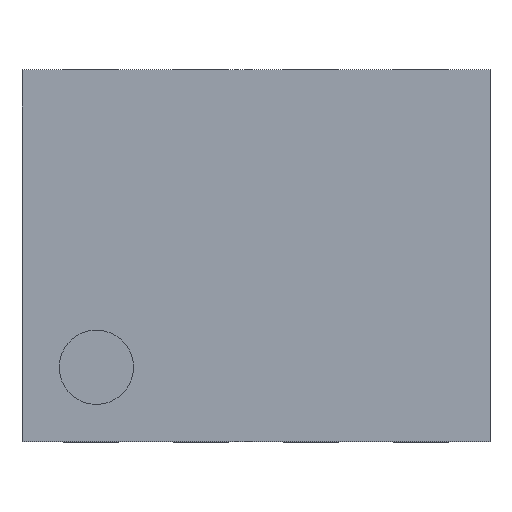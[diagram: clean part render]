
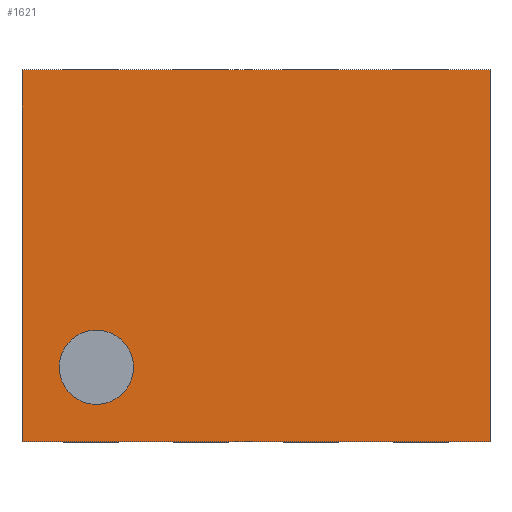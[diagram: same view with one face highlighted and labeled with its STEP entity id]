
A CAD part, top view. The second image highlights one B-rep face of the part: STEP entity #1621.
In plain terms, the highlighted planar face has unit normal (0, 0, 1).
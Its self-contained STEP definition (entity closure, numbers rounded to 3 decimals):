
#72=LINE('',#2304,#259);
#173=LINE('',#2539,#360);
#198=LINE('',#2594,#385);
#199=LINE('',#2596,#386);
#259=VECTOR('',#1880,1.7);
#360=VECTOR('',#2085,1.7);
#385=VECTOR('',#2144,1.35);
#386=VECTOR('',#2147,1.35);
#447=PLANE('',#1736);
#522=FACE_BOUND('',#680,.T.);
#523=FACE_BOUND('',#681,.T.);
#680=EDGE_LOOP('',(#1522));
#681=EDGE_LOOP('',(#1523,#1524,#1525,#1526));
#683=CIRCLE('',#1627,0.135);
#717=VERTEX_POINT('',#2154);
#767=VERTEX_POINT('',#2301);
#768=VERTEX_POINT('',#2303);
#849=VERTEX_POINT('',#2536);
#850=VERTEX_POINT('',#2538);
#865=EDGE_CURVE('',#717,#717,#683,.T.);
#937=EDGE_CURVE('',#767,#768,#72,.T.);
#1056=EDGE_CURVE('',#849,#850,#173,.T.);
#1083=EDGE_CURVE('',#850,#767,#198,.T.);
#1084=EDGE_CURVE('',#768,#849,#199,.T.);
#1522=ORIENTED_EDGE('',*,*,#865,.T.);
#1523=ORIENTED_EDGE('',*,*,#1083,.F.);
#1524=ORIENTED_EDGE('',*,*,#1056,.F.);
#1525=ORIENTED_EDGE('',*,*,#1084,.F.);
#1526=ORIENTED_EDGE('',*,*,#937,.F.);
#1621=ADVANCED_FACE('',(#522,#523),#447,.T.);
#1627=AXIS2_PLACEMENT_3D('',#2155,#1743,#1744);
#1736=AXIS2_PLACEMENT_3D('',#2597,#2148,#2149);
#1743=DIRECTION('center_axis',(0.,0.,-1.));
#1744=DIRECTION('ref_axis',(-1.,0.,0.));
#1880=DIRECTION('',(1.,0.,0.));
#2085=DIRECTION('',(-1.,0.,0.));
#2144=DIRECTION('',(0.,1.,0.));
#2147=DIRECTION('',(0.,-1.,0.));
#2148=DIRECTION('center_axis',(0.,0.,1.));
#2149=DIRECTION('ref_axis',(1.,0.,0.));
#2154=CARTESIAN_POINT('',(-0.445,-0.405,0.55));
#2155=CARTESIAN_POINT('Origin',(-0.58,-0.405,0.55));
#2301=CARTESIAN_POINT('',(-0.85,0.675,0.55));
#2303=CARTESIAN_POINT('',(0.85,0.675,0.55));
#2304=CARTESIAN_POINT('',(0.85,0.675,0.55));
#2536=CARTESIAN_POINT('',(0.85,-0.675,0.55));
#2538=CARTESIAN_POINT('',(-0.85,-0.675,0.55));
#2539=CARTESIAN_POINT('',(-0.85,-0.675,0.55));
#2594=CARTESIAN_POINT('',(-0.85,0.675,0.55));
#2596=CARTESIAN_POINT('',(0.85,-0.675,0.55));
#2597=CARTESIAN_POINT('Origin',(0.,0.,
0.55));
